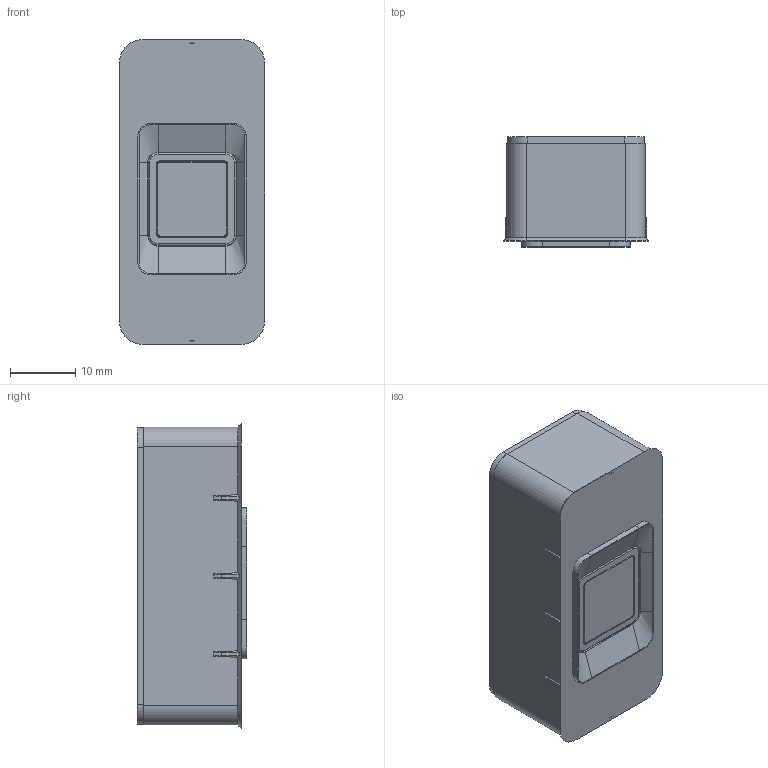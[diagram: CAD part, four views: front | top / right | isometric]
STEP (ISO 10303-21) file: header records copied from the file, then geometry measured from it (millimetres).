
FILE_DESCRIPTION(/* description */ ('Unknown'),/* implementation_level */ '2;1');
FILE_NAME(/* name */ 'ekey_dLine_Fingerprint',/* time_stamp */ '2020-12-10T12:58:50+01:00',/* author */ ('Unknown'),/* organization */ ('Unknown'),/* preprocessor_version */ 'ST-DEVELOPER v16.7',/* originating_system */ 'Solid Edge',/* authorisation */ 'Unknown');
FILE_SCHEMA (('AUTOMOTIVE_DESIGN {1 0 10303 214 3 1 1}'));
Length unit declared in the file: millimetre
Products named in the file (5): _0040_01_FS_Arte_Clemens_Dummy; _0040_01_FS_Arte_oa_0; 0040_001_ekey dLine basic housing; 0040_020_ekey fingerprint sensor; 0040_002_ekey dLine basic housing cover
Assembly tree (4 placements, depth 3):
  _0040_01_FS_Arte_Clemens_Dummy
    _0040_01_FS_Arte_oa_0
      0040_001_ekey dLine basic housing
      0040_020_ekey fingerprint sensor
      0040_002_ekey dLine basic housing cover
Bounding box: 22.3 x 16.9 x 46.8 mm (x, y, z)
Volume: 15667.4 mm3; surface area: 7837.1 mm2
Topology: 4 solids, 4 shells, 365 faces, 921 edges, 564 vertices
Faces by surface type: plane 169, cylinder 128, torus 26, sphere 20, cone 12, bspline 10
Entity records: 13420 total; most frequent: CARTESIAN_POINT 2533, DIRECTION 1875, ORIENTED_EDGE 1802, EDGE_CURVE 901, AXIS2_PLACEMENT_3D 666, VERTEX_POINT 564, LINE 543, VECTOR 543
